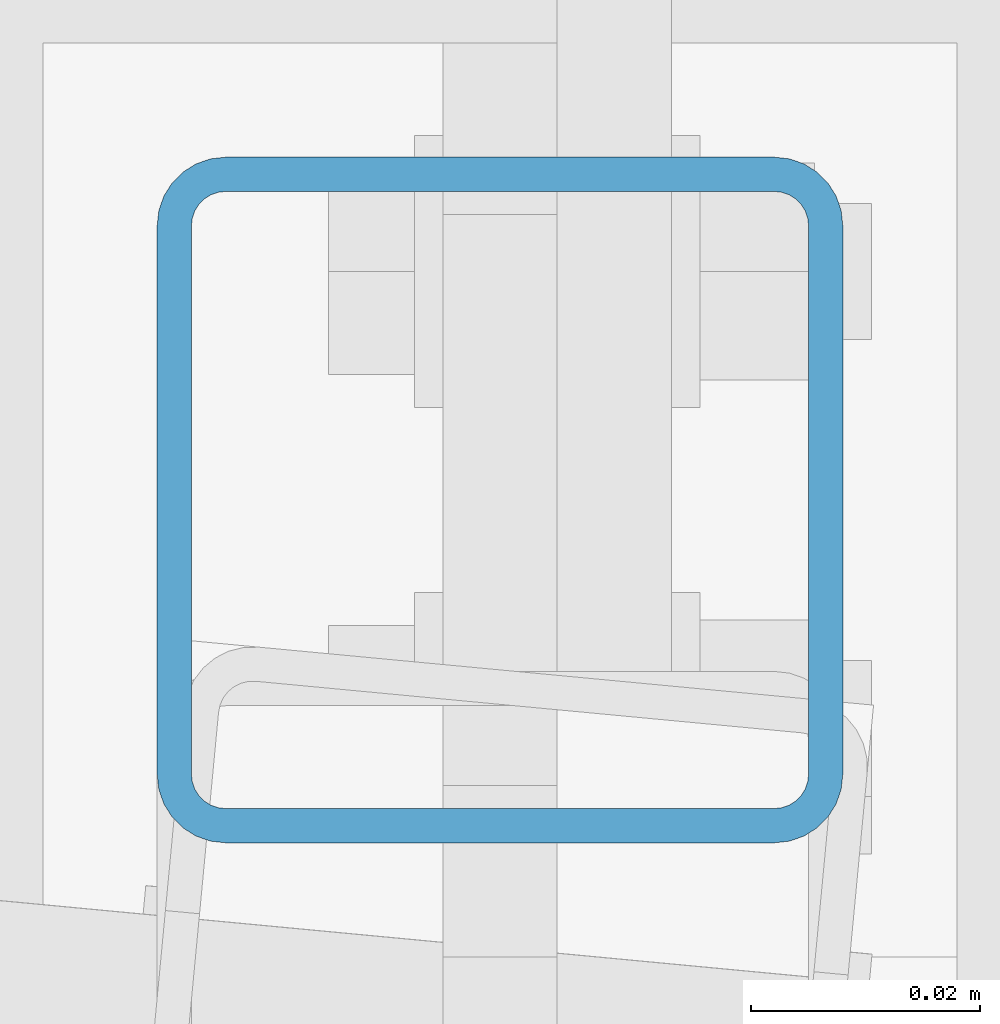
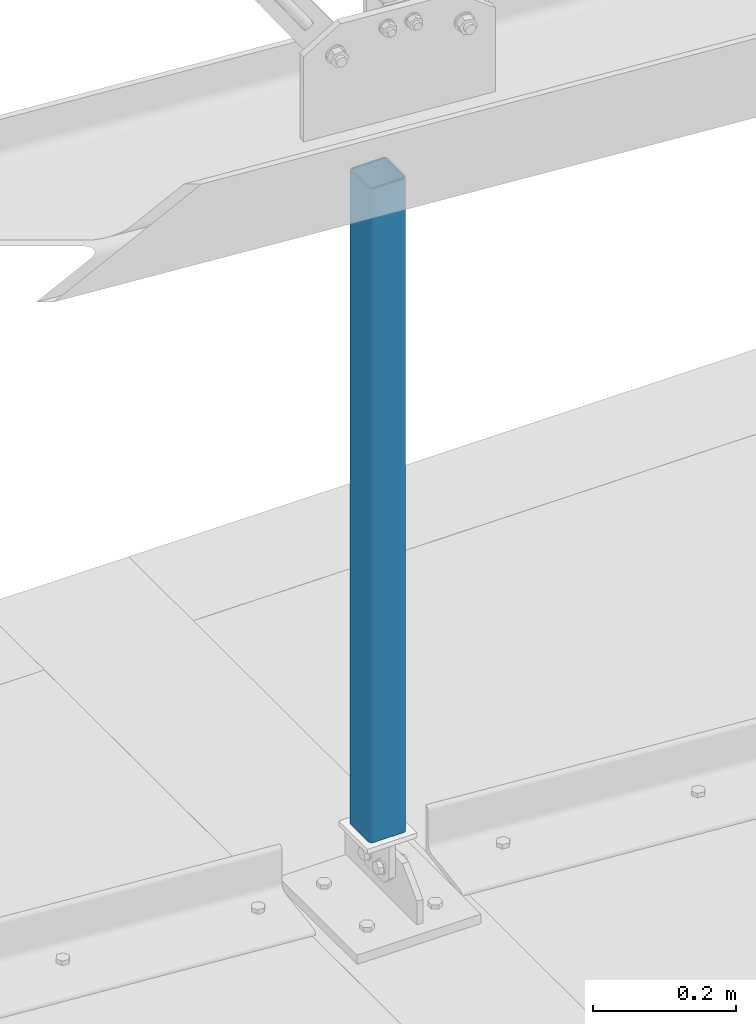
# One storey, part 34 of 271: 1 beam, 1 element without a shape of its own.
"""IFC2X3 building model written with IfcOpenShell, lengths in millimetres."""

from ifc_helpers import new_model, si_unit, frame, origin_with_axes, origin_2d_with_axis, place, context, subcontext, project, spatial, hollow_rectangle, extrude, clip, halfspace, material, type_object, element, aggregate, save


model = new_model("IFC2X3")

# Units and contexts
model_context = context("Model", 3, precision=1e-05, world=origin_with_axes())
body_context = subcontext(model_context, "Body", "Model", "MODEL_VIEW")
ifc_project = project(units=[si_unit("LENGTHUNIT", "METRE", prefix="MILLI"), si_unit("AREAUNIT", "SQUARE_METRE"), si_unit("VOLUMEUNIT", "CUBIC_METRE"), si_unit("MASSUNIT", "GRAM", prefix="KILO"), si_unit("TIMEUNIT", "SECOND"), si_unit("PLANEANGLEUNIT", "RADIAN"), si_unit("SOLIDANGLEUNIT", "STERADIAN"), si_unit("THERMODYNAMICTEMPERATUREUNIT", "DEGREE_CELSIUS"), si_unit("LUMINOUSINTENSITYUNIT", "LUMEN")], contexts=[model_context])

# Site, building, storey
site_placement = place(None, origin_with_axes())
site = spatial("IfcSite", under=ifc_project, at=site_placement, Name="Undefined", CompositionType="ELEMENT")
building_placement = place(site_placement, origin_with_axes())
building = spatial("IfcBuilding", under=site, at=building_placement, Name="Undefined", CompositionType="ELEMENT")
storey_placement = place(building_placement, origin_with_axes())
storey = spatial("IfcBuildingStorey", under=building, at=storey_placement, Name="Undefined", CompositionType="ELEMENT", Elevation=0.0)

# Assembly, beam
assembly_placement = place(storey_placement, origin_with_axes())
assembly = element("IfcElementAssembly", 1, at=assembly_placement, inside=storey, AssemblyPlace="NOTDEFINED", PredefinedType="RIGID_FRAME")
ifc_material = material(Name="STEEL/S355JR")
beam_type = type_object("IfcBeamType", Name="SHS60*3", PredefinedType="NOTDEFINED")
beam_placement = place(assembly_placement, frame((3168.37568709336, 4050.32498425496, 7.00000000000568), z_axis=(0.0, 1.0, 0.0), x_axis=(0.0, 0.0, 1.0)))
beam = element("IfcBeam", 2, at=beam_placement, type_object=beam_type, material=ifc_material, Name="TĘŻNIK", ObjectType="SHS60*3", context=body_context, shape_type="Clipping", body=[
    clip(clip(extrude(hollow_rectangle(XDim=60.0, YDim=60.0, WallThickness=3.0, InnerFilletRadius=3.0, OuterFilletRadius=6.0, at=origin_2d_with_axis()), frame((1357.3499999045, 0.0, 0.0), z_axis=(-1.0, 0.0, 1.38777878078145e-17), x_axis=(0.0, -1.0, 0.0)), (0.0, 0.0, 1.0), 1357.35), halfspace(frame((1225.749999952, 15.0, 0.0), z_axis=(-1.0, 0.0, 1.38777878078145e-17), x_axis=(0.0, 0.0, 1.0)), True)), halfspace(frame((110.6500000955, 0.0, 1000.0), z_axis=(1.0, 0.0, 0.0), x_axis=(0.0, 1.0, 0.0)), True)),
])
aggregate(assembly, [beam])

save(model, "model.ifc")
